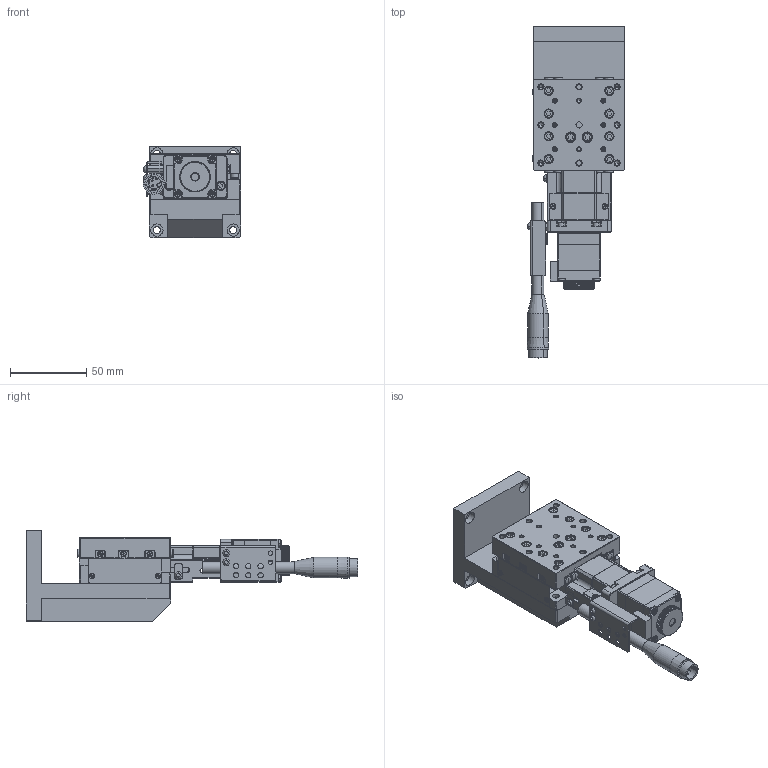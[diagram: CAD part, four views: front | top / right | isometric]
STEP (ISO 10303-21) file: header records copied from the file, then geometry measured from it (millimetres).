
FILE_DESCRIPTION (( 'STEP AP214' ), '1' );
FILE_NAME ('TZA6020B-L2-M28L.STEP', '2025-01-03T10:34:07', ( '' ), ( '' ), 'SwSTEP 2.0', 'SolidWorks 2020', '' );
FILE_SCHEMA (( 'AUTOMOTIVE_DESIGN' ));
Length unit declared in the file: millimetre
Products named in the file (1): TZA6020B-L2-M28L
Bounding box: 63.98 x 218 x 60 mm (x, y, z)
Volume: 262391.5 mm3; surface area: 104095.5 mm2
Topology: 79 solids, 79 shells, 3542 faces, 8851 edges, 5574 vertices
Faces by surface type: plane 1766, cylinder 936, cone 514, torus 168, bspline 154, sphere 4
Entity records: 152732 total; most frequent: CARTESIAN_POINT 28145, ORIENTED_EDGE 17522, DIRECTION 17417, EDGE_CURVE 8761, AXIS2_PLACEMENT_3D 6057, VERTEX_POINT 5574, VECTOR 5303, LINE 5303
